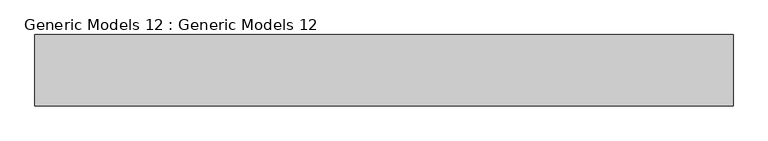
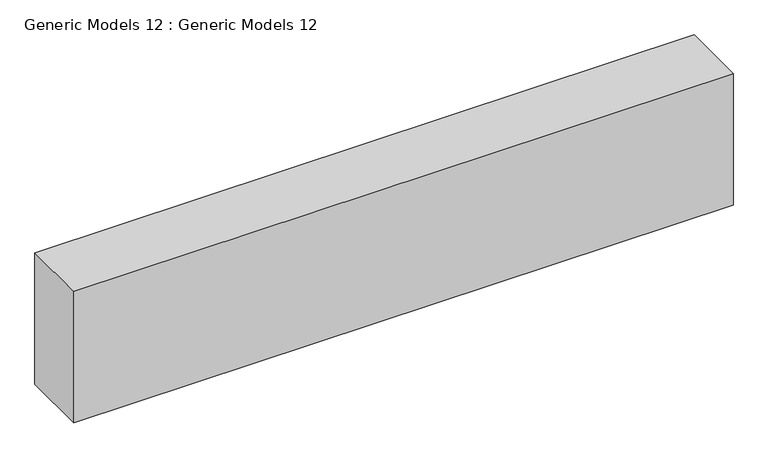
"""IFC4 building model written with IfcOpenShell, lengths in millimetres: proxy geometry, Generic Models 12 : Generic Models 12."""

from ifc_helpers import new_model, si_unit, frame, origin, place, context, project, spatial, polyline, outline, extrude, source, transform, mapped, element, save


def generic_models_12_generic_models_12_cab37b76(model_context):
    return source(origin(), model_context, "Body", "SweptSolid", [
        extrude(outline(polyline([(6210.3, 165.1), (4102.1, 165.1), (4102.1, 381.0), (6210.3, 381.0), (6210.3, 165.1)])), frame((0.0, 0.0, 3251.2), z_axis=(0.0, 0.0, 1.0), x_axis=(1.0, 0.0, 0.0)), (0.0, 0.0, 1.0), 444.5),
    ])


if __name__ == "__main__":
    model = new_model("IFC4")
    model_context = context("Model", 3, world=origin())
    ifc_project = project(units=[si_unit("LENGTHUNIT", "METRE", prefix="MILLI")], contexts=[model_context])
    site = spatial("IfcSite", under=ifc_project)
    building = spatial("IfcBuilding", under=site)
    placement = place(None, origin())
    generic_models_12_generic_models_12_shape = generic_models_12_generic_models_12_cab37b76(model_context)
    element("IfcBuildingElementProxy", 1, Name="Generic Models 12 : Generic Models 12", ObjectType="Generic Models 12 : Generic Models 12", at=placement, inside=building, context=model_context, shape_type="MappedRepresentation", body=[
        mapped(generic_models_12_generic_models_12_shape, transform((0.0, 0.0, 0.0), x_axis=(1.0, 0.0, 0.0), y_axis=(0.0, 1.0, 0.0), z_axis=(0.0, 0.0, 1.0))),
    ])
    save(model, "model.ifc")
